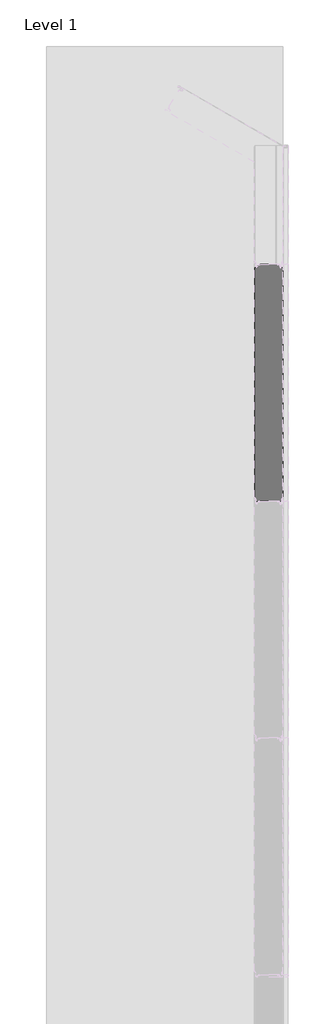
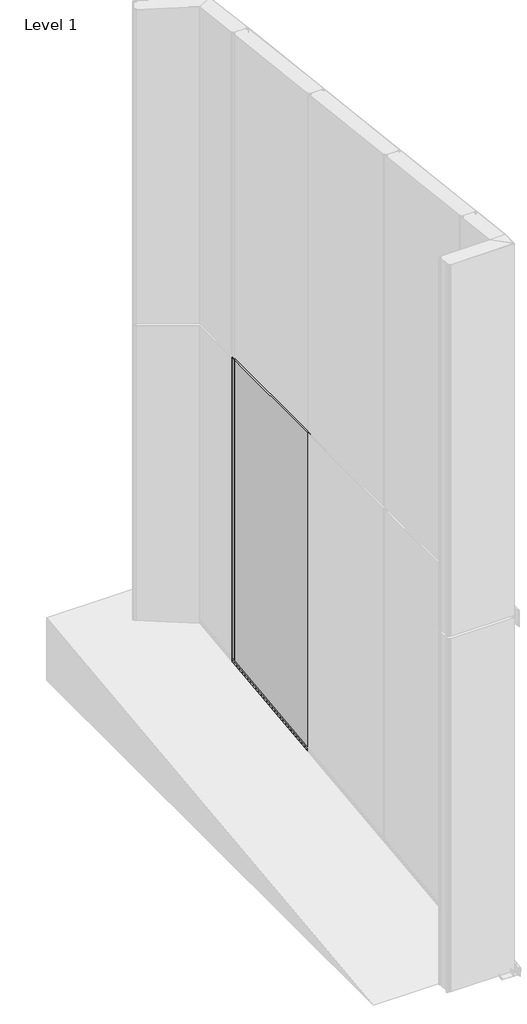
# One storey, part 10 of 16: 1 plate.
"""IFC4 building model written with IfcOpenShell, lengths in millimetres."""

from ifc_helpers import new_model, si_unit, frame, origin, place, context, project, spatial, polyline, circle_curve, ellipse_curve, element, save
from ifc_brep_helpers import plane_surface, cylinder_surface, revolved_surface, advanced_brep

model = new_model("IFC4")

# Units and contexts
model_context = context("Model", 3, world=origin())
ifc_project = project(units=[si_unit("LENGTHUNIT", "METRE", prefix="MILLI")], contexts=[model_context])

# Site, building, storey
site = spatial("IfcSite", under=ifc_project)
building = spatial("IfcBuilding", under=site)
storey = spatial("IfcBuildingStorey", under=building, Name="Level 1", Elevation=0.0)

# Plate
placement = place(None, origin())
element("IfcPlate", 1, ObjectType="TR_C_V_FTV_Panel : 120/RAL9006/RAL9002", at=placement, inside=storey, context=model_context, shape_type="AdvancedBrep", body=[
    advanced_brep(
    [(-11.0024729, 6469.8069107, 2980.0), (-15.1155057, 6469.8069107, 2980.0), (-15.1155057, 6469.0069107, 2980.0), (-11.0024729, 6469.0069107, 2980.0), (-7.3094438, 6465.9080913, 2980.0), (-6.5661308, 6461.6925541, 2980.0), (-0.1155057, 6462.2569107, 2980.0), (-0.1155057, 6477.0069107, 2980.0), (0.6167274, 6478.7746776, 2980.0), (5.0058147, 6483.1637649, 2980.0), (5.8844943, 6485.2850853, 2980.0), (5.8844943, 7474.6255398, 2980.0), (5.079038, 7476.5700835, 2980.0), (3.2133526, 7478.4357689, 2980.0), (-0.1155057, 7477.0569107, 2980.0), (-0.1155057, 7459.4569107, 2980.0), (-6.9630924, 7458.8578244, 2980.0), (-8.0299177, 7464.9080913, 2980.0), (-11.7229468, 7468.0069107, 2980.0), (-15.1155057, 7468.0069107, 2980.0), (-15.1155057, 7467.2069107, 2980.0), (-11.7229468, 7467.2069107, 2980.0), (-8.8177639, 7464.7691728, 2980.0), (-7.7509386, 7458.7189059, 2980.0), (0.6844943, 7459.4569107, 2980.0), (0.6844943, 7477.0569107, 2980.0), (2.6476671, 7477.8700835, 2980.0), (4.5133526, 7476.004398, 2980.0), (5.0844943, 7474.6255398, 2980.0), (5.0844943, 6485.2850853, 2980.0), (4.4401293, 6483.7294503, 2980.0), (0.051042, 6479.340363, 2980.0), (-0.9155057, 6477.0069107, 2980.0), (-0.9155057, 6462.2569107, 2980.0), (-5.7782846, 6461.8314726, 2980.0), (-6.5215976, 6466.0470099, 2980.0), (-11.0024729, 6469.8069107, 426.7674417), (-15.1155057, 6469.8069107, 426.7674417), (-15.1155057, 6469.0069107, 426.6744184), (-11.0024729, 6469.0069107, 426.6744184), (-7.3094438, 6465.9080913, 426.3140906), (-6.5661308, 6461.6925541, 425.8239119), (-0.1155057, 6462.2569107, 425.8895347), (-0.1155057, 6477.0069107, 427.604651), (0.6167274, 6478.7746776, 427.8102053), (5.0058147, 6483.1637649, 428.3205643), (5.8844943, 6485.2850853, 428.5672294), (5.8844943, 7474.6255398, 543.6068172), (5.079038, 7476.5700835, 543.8329269), (3.2133526, 7478.4357689, 544.0498671), (-0.1155057, 7477.0569107, 543.8895347), (-0.1155057, 7459.4569107, 541.8430231), (-6.9630924, 7458.8578244, 541.7733619), (-8.0299177, 7464.9080913, 542.4768813), (-11.7229468, 7468.0069107, 542.8372091), (-15.1155057, 7468.0069107, 542.8372091), (-15.1155057, 7467.2069107, 542.7441859), (-11.7229468, 7467.2069107, 542.7441859), (-8.8177639, 7464.7691728, 542.460728), (-7.7509386, 7458.7189059, 541.7572086), (0.6844943, 7459.4569107, 541.8430231), (0.6844943, 7477.0569107, 543.8895347), (2.6476671, 7477.8700835, 543.9840897), (4.5133526, 7476.004398, 543.7671495), (5.0844943, 7474.6255398, 543.6068172), (5.0844943, 6485.2850853, 428.5672294), (4.4401293, 6483.7294503, 428.3863417), (0.051042, 6479.340363, 427.8759827), (-0.9155057, 6477.0069107, 427.604651), (-0.9155057, 6462.2569107, 425.8895347), (-5.7782846, 6461.8314726, 425.8400652), (-6.5215976, 6466.0470099, 426.3302439)],
    [
        (0, 1),
        (1, 2),
        (2, 3),
        (3, 4, circle_curve(frame((-11.0024729, 6465.2569107, 2980.0), z_axis=(0.0, 0.0, -1.0), x_axis=(0.0, -1.0, 0.0)), 3.75)),
        (4, 5),
        (5, 6, circle_curve(frame((-3.3655057, 6462.2569107, 2980.0), z_axis=(0.0, 0.0, 1.0), x_axis=(0.0, -1.0, 0.0)), 3.25)),
        (6, 7),
        (7, 8, circle_curve(frame((2.3844943, 6477.0069107, 2980.0), z_axis=(0.0, 0.0, -1.0), x_axis=(0.0, -1.0, 0.0)), 2.5)),
        (8, 9),
        (9, 10, circle_curve(frame((2.8844943, 6485.2850853, 2980.0), z_axis=(0.0, 0.0, 1.0), x_axis=(0.0, -1.0, 0.0)), 3.0)),
        (10, 11),
        (11, 12, circle_curve(frame((3.1344943, 7474.6255398, 2980.0), z_axis=(0.0, 0.0, 1.0), x_axis=(0.0, -1.0, 0.0)), 2.75)),
        (12, 13),
        (13, 14, circle_curve(frame((1.8344943, 7477.0569107, 2980.0), z_axis=(0.0, 0.0, 1.0), x_axis=(0.0, -1.0, 0.0)), 1.95)),
        (14, 15),
        (15, 16, circle_curve(frame((-3.5655057, 7459.4569107, 2980.0), z_axis=(0.0, 0.0, -1.0), x_axis=(0.0, -1.0, 0.0)), 3.45)),
        (16, 17),
        (17, 18, circle_curve(frame((-11.7229468, 7464.2569107, 2980.0), z_axis=(0.0, 0.0, 1.0), x_axis=(0.0, -1.0, 0.0)), 3.75)),
        (18, 19),
        (19, 20),
        (20, 21),
        (21, 22, circle_curve(frame((-11.7229468, 7464.2569107, 2980.0), z_axis=(0.0, 0.0, -1.0), x_axis=(0.0, -1.0, 0.0)), 2.95)),
        (22, 23),
        (23, 24, circle_curve(frame((-3.5655057, 7459.4569107, 2980.0), z_axis=(0.0, 0.0, 1.0), x_axis=(0.0, -1.0, 0.0)), 4.25)),
        (24, 25),
        (25, 26, circle_curve(frame((1.8344943, 7477.0569107, 2980.0), z_axis=(0.0, 0.0, -1.0), x_axis=(0.0, -1.0, 0.0)), 1.15)),
        (26, 27),
        (27, 28, circle_curve(frame((3.1344943, 7474.6255398, 2980.0), z_axis=(0.0, 0.0, -1.0), x_axis=(0.0, -1.0, 0.0)), 1.95)),
        (28, 29),
        (29, 30, circle_curve(frame((2.8844943, 6485.2850853, 2980.0), z_axis=(0.0, 0.0, -1.0), x_axis=(0.0, -1.0, 0.0)), 2.2)),
        (30, 31),
        (31, 32, circle_curve(frame((2.3844943, 6477.0069107, 2980.0), z_axis=(0.0, 0.0, 1.0), x_axis=(0.0, -1.0, 0.0)), 3.3)),
        (32, 33),
        (33, 34, circle_curve(frame((-3.3655057, 6462.2569107, 2980.0), z_axis=(0.0, 0.0, -1.0), x_axis=(0.0, -1.0, 0.0)), 2.45)),
        (34, 35),
        (35, 0, circle_curve(frame((-11.0024729, 6465.2569107, 2980.0), z_axis=(0.0, 0.0, 1.0), x_axis=(0.0, -1.0, 0.0)), 4.55)),
        (0, 36),
        (36, 37),
        (37, 1),
        (37, 38),
        (38, 2),
        (38, 39),
        (39, 3),
        (39, 40, ellipse_curve(frame((-11.0024729, 6465.2569107, 426.2383719), z_axis=(0.0, 0.11550085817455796, -0.9933073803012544), x_axis=(0.0, -0.9933073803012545, -0.11550085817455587)), 3.7752664, 3.75)),
        (40, 4),
        (40, 41),
        (41, 5),
        (41, 42, ellipse_curve(frame((-3.3655057, 6462.2569107, 425.8895347), z_axis=(0.0, -0.11550085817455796, 0.9933073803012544), x_axis=(0.0, 0.9933073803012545, 0.11550085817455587)), 3.2718976, 3.25)),
        (42, 6),
        (42, 43),
        (43, 7),
        (43, 44, ellipse_curve(frame((2.3844943, 6477.0069107, 427.604651), z_axis=(0.0, 0.11550085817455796, -0.9933073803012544), x_axis=(0.0, -0.9933073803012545, -0.11550085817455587)), 2.5168443, 2.5)),
        (44, 8),
        (44, 45),
        (45, 9),
        (45, 46, ellipse_curve(frame((2.8844943, 6485.2850853, 428.5672294), z_axis=(0.0, -0.11550085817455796, 0.9933073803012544), x_axis=(0.0, 0.9933073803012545, 0.11550085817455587)), 3.0202131, 3.0)),
        (46, 10),
        (46, 47),
        (47, 11),
        (47, 48, ellipse_curve(frame((3.1344943, 7474.6255398, 543.6068172), z_axis=(0.0, -0.11550085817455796, 0.9933073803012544), x_axis=(0.0, 0.9933073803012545, 0.11550085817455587)), 2.7685287, 2.75)),
        (48, 12),
        (48, 49),
        (49, 13),
        (49, 50, ellipse_curve(frame((1.8344943, 7477.0569107, 543.8895347), z_axis=(0.0, -0.11550085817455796, 0.9933073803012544), x_axis=(0.0, 0.9933073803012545, 0.11550085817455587)), 1.9631385, 1.95)),
        (50, 14),
        (50, 51),
        (51, 15),
        (51, 52, ellipse_curve(frame((-3.5655057, 7459.4569107, 541.8430231), z_axis=(0.0, 0.11550085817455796, -0.9933073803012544), x_axis=(0.0, -0.9933073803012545, -0.11550085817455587)), 3.4732451, 3.45)),
        (52, 16),
        (52, 53),
        (53, 17),
        (53, 54, ellipse_curve(frame((-11.7229468, 7464.2569107, 542.4011626), z_axis=(0.0, -0.11550085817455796, 0.9933073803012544), x_axis=(0.0, 0.9933073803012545, 0.11550085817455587)), 3.7752664, 3.75)),
        (54, 18),
        (54, 55),
        (55, 19),
        (55, 56),
        (56, 20),
        (56, 57),
        (57, 21),
        (57, 58, ellipse_curve(frame((-11.7229468, 7464.2569107, 542.4011626), z_axis=(0.0, 0.11550085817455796, -0.9933073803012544), x_axis=(0.0, -0.9933073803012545, -0.11550085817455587)), 2.9698763, 2.95)),
        (58, 22),
        (58, 59),
        (59, 23),
        (59, 60, ellipse_curve(frame((-3.5655057, 7459.4569107, 541.8430231), z_axis=(0.0, -0.11550085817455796, 0.9933073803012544), x_axis=(0.0, 0.9933073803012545, 0.11550085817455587)), 4.2786353, 4.25)),
        (60, 24),
        (60, 61),
        (61, 25),
        (61, 62, ellipse_curve(frame((1.8344943, 7477.0569107, 543.8895347), z_axis=(0.0, 0.11550085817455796, -0.9933073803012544), x_axis=(0.0, -0.9933073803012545, -0.11550085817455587)), 1.1577484, 1.15)),
        (62, 26),
        (62, 63),
        (63, 27),
        (63, 64, ellipse_curve(frame((3.1344943, 7474.6255398, 543.6068172), z_axis=(0.0, 0.11550085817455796, -0.9933073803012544), x_axis=(0.0, -0.9933073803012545, -0.11550085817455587)), 1.9631385, 1.95)),
        (64, 28),
        (64, 65),
        (65, 29),
        (65, 66, ellipse_curve(frame((2.8844943, 6485.2850853, 428.5672294), z_axis=(0.0, 0.11550085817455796, -0.9933073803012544), x_axis=(0.0, -0.9933073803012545, -0.11550085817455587)), 2.214823, 2.2)),
        (66, 30),
        (66, 67),
        (67, 31),
        (67, 68, ellipse_curve(frame((2.3844943, 6477.0069107, 427.604651), z_axis=(0.0, -0.11550085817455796, 0.9933073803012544), x_axis=(0.0, 0.9933073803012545, 0.11550085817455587)), 3.3222345, 3.3)),
        (68, 32),
        (68, 69),
        (69, 33),
        (69, 70, ellipse_curve(frame((-3.3655057, 6462.2569107, 425.8895347), z_axis=(0.0, 0.11550085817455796, -0.9933073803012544), x_axis=(0.0, -0.9933073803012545, -0.11550085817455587)), 2.4665074, 2.45)),
        (70, 34),
        (70, 71),
        (71, 35),
        (71, 36, ellipse_curve(frame((-11.0024729, 6465.2569107, 426.2383719), z_axis=(0.0, -0.11550085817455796, 0.9933073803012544), x_axis=(0.0, 0.9933073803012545, 0.11550085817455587)), 4.5806566, 4.55)),
    ],
    [
        plane_surface(frame((-15.1155057, 6469.8069107, 2980.0), z_axis=(0.0, 0.0, 1.0), x_axis=(-1.0, 0.0, 0.0))),
        plane_surface(frame((-11.0024729, 6469.8069107, 2980.0), z_axis=(0.0, 1.0, 0.0), x_axis=(0.0, 0.0, -1.0))),
        plane_surface(frame((-15.1155057, 6469.8069107, 2980.0), z_axis=(-1.0, 0.0, 0.0), x_axis=(0.0, 0.0, -1.0))),
        plane_surface(frame((-15.1155057, 6469.0069107, 2980.0), z_axis=(0.0, -1.0, 0.0), x_axis=(0.0, 0.0, -1.0))),
        revolved_surface(polyline([(-11.0024729, 6461.5069107, 425.80232539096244), (-11.0024729, 6461.5069107, 2980.0)]), (-11.0024729, 6465.2569107, 150.0), (0.0, 0.0, -1.0)),
        plane_surface(frame((-7.3094438, 6465.9080913, 2980.0), z_axis=(-0.9848077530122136, -0.17364817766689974, 0.0), x_axis=(0.0, 0.0, -1.0))),
        cylinder_surface(frame((-3.3655057, 6462.2569107, 150.0), z_axis=(0.0, 0.0, 1.0), x_axis=(0.0, -1.0, 0.0)), 3.25),
        plane_surface(frame((-0.1155057, 6462.2569107, 2980.0), z_axis=(1.0, 0.0, 0.0), x_axis=(0.0, 0.0, -1.0))),
        revolved_surface(polyline([(2.3844943, 6474.5069107, 427.31395332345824), (2.3844943, 6474.5069107, 2980.0)]), (2.3844943, 6477.0069107, 150.0), (0.0, 0.0, -1.0)),
        plane_surface(frame((0.6167274, 6478.7746776, 2980.0), z_axis=(0.7071067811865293, -0.7071067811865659, 0.0), x_axis=(0.0, 0.0, -1.0))),
        cylinder_surface(frame((2.8844943, 6485.2850853, 150.0), z_axis=(0.0, 0.0, 1.0), x_axis=(0.0, -1.0, 0.0)), 3.0),
        plane_surface(frame((5.8844943, 6485.2850853, 2980.0), z_axis=(1.0, 0.0, 0.0), x_axis=(0.0, 0.0, -1.0))),
        cylinder_surface(frame((3.1344943, 7474.6255398, 150.0), z_axis=(0.0, 0.0, 1.0), x_axis=(0.0, -1.0, 0.0)), 2.75),
        plane_surface(frame((5.079038, 7476.5700835, 2980.0), z_axis=(0.7071067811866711, 0.707106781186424, 0.0), x_axis=(0.0, 0.0, -1.0))),
        cylinder_surface(frame((1.8344943, 7477.0569107, 150.0), z_axis=(0.0, 0.0, 1.0), x_axis=(0.0, -1.0, 0.0)), 1.95),
        plane_surface(frame((-0.1155057, 7477.0569107, 2980.0), z_axis=(-1.0, 0.0, 0.0), x_axis=(0.0, 0.0, -1.0))),
        revolved_surface(polyline([(-3.5655057, 7456.0069107, 541.4418603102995), (-3.5655057, 7456.0069107, 2980.0)]), (-3.5655057, 7459.4569107, 150.0), (0.0, 0.0, -1.0)),
        plane_surface(frame((-6.9630924, 7458.8578244, 2980.0), z_axis=(0.9848077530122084, 0.17364817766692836, 0.0), x_axis=(0.0, 0.0, -1.0))),
        cylinder_surface(frame((-11.7229468, 7464.2569107, 150.0), z_axis=(0.0, 0.0, 1.0), x_axis=(0.0, -1.0, 0.0)), 3.75),
        plane_surface(frame((-11.7229468, 7468.0069107, 2980.0), z_axis=(0.0, 1.0, 0.0), x_axis=(0.0, 0.0, -1.0))),
        plane_surface(frame((-15.1155057, 7468.0069107, 2980.0), z_axis=(-1.0, 0.0, 0.0), x_axis=(0.0, 0.0, -1.0))),
        plane_surface(frame((-15.1155057, 7467.2069107, 2980.0), z_axis=(0.0, -1.0, 0.0), x_axis=(0.0, 0.0, -1.0))),
        revolved_surface(polyline([(-11.7229468, 7461.3069107, 542.0581393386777), (-11.7229468, 7461.3069107, 2980.0)]), (-11.7229468, 7464.2569107, 150.0), (0.0, 0.0, -1.0)),
        plane_surface(frame((-8.8177639, 7464.7691728, 2980.0), z_axis=(-0.9848077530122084, -0.17364817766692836, 0.0), x_axis=(0.0, 0.0, -1.0))),
        cylinder_surface(frame((-3.5655057, 7459.4569107, 150.0), z_axis=(0.0, 0.0, 1.0), x_axis=(0.0, -1.0, 0.0)), 4.25),
        plane_surface(frame((0.6844943, 7459.4569107, 2980.0), z_axis=(1.0, 0.0, 0.0), x_axis=(0.0, 0.0, -1.0))),
        revolved_surface(polyline([(1.8344943, 7475.9069107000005, 543.7558137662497), (1.8344943, 7475.9069107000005, 2980.0)]), (1.8344943, 7477.0569107, 150.0), (0.0, 0.0, -1.0)),
        plane_surface(frame((2.6476671, 7477.8700835, 2980.0), z_axis=(-0.7071067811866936, -0.7071067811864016, 0.0), x_axis=(0.0, 0.0, -1.0))),
        revolved_surface(polyline([(3.1344943, 7472.6755398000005, 543.3800730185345), (3.1344943, 7472.6755398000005, 2980.0)]), (3.1344943, 7474.6255398, 150.0), (0.0, 0.0, -1.0)),
        plane_surface(frame((5.0844943, 7474.6255398, 2980.0), z_axis=(-1.0, 0.0, 0.0), x_axis=(0.0, 0.0, -1.0))),
        revolved_surface(polyline([(2.8844943, 6483.0850853, 428.31141544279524), (2.8844943, 6483.0850853, 2980.0)]), (2.8844943, 6485.2850853, 150.0), (0.0, 0.0, -1.0)),
        plane_surface(frame((4.4401293, 6483.7294503, 2980.0), z_axis=(-0.7071067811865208, 0.7071067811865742, 0.0), x_axis=(0.0, 0.0, -1.0))),
        cylinder_surface(frame((2.3844943, 6477.0069107, 150.0), z_axis=(0.0, 0.0, 1.0), x_axis=(0.0, -1.0, 0.0)), 3.3),
        plane_surface(frame((-0.9155057, 6477.0069107, 2980.0), z_axis=(-1.0, 0.0, 0.0), x_axis=(0.0, 0.0, -1.0))),
        revolved_surface(polyline([(-3.3655057, 6459.8069107, 425.6046509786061), (-3.3655057, 6459.8069107, 2980.0)]), (-3.3655057, 6462.2569107, 150.0), (0.0, 0.0, -1.0)),
        plane_surface(frame((-5.7782846, 6461.8314726, 2980.0), z_axis=(0.9848077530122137, 0.17364817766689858, 0.0), x_axis=(0.0, 0.0, -1.0))),
        cylinder_surface(frame((-11.0024729, 6465.2569107, 150.0), z_axis=(0.0, 0.0, 1.0), x_axis=(0.0, -1.0, 0.0)), 4.55),
        plane_surface(frame((5.8844943, 6239.6069121, 400.0), z_axis=(0.0, 0.11550085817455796, -0.9933073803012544), x_axis=(0.0, 0.9933073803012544, 0.11550085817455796))),
    ],
    [
        (0, [[1, 2, 3, 4, 5, 6, 7, 8, 9, 10, 11, 12, 13, 14, 15, 16, 17, 18, 19, 20, 21, 22, 23, 24, 25, 26, 27, 28, 29, 30, 31, 32, 33, 34, 35, 36]]),
        (1, [[-1, 37, 38, 39]]),
        (2, [[-2, -39, 40, 41]]),
        (3, [[-3, -41, 42, 43]]),
        (4, [[-4, -43, 44, 45]]),
        (5, [[-5, -45, 46, 47]]),
        (6, [[-6, -47, 48, 49]]),
        (7, [[-7, -49, 50, 51]]),
        (8, [[-8, -51, 52, 53]]),
        (9, [[-9, -53, 54, 55]]),
        (10, [[-10, -55, 56, 57]]),
        (11, [[-11, -57, 58, 59]]),
        (12, [[-12, -59, 60, 61]]),
        (13, [[-13, -61, 62, 63]]),
        (14, [[-14, -63, 64, 65]]),
        (15, [[-15, -65, 66, 67]]),
        (16, [[-16, -67, 68, 69]]),
        (17, [[-17, -69, 70, 71]]),
        (18, [[-18, -71, 72, 73]]),
        (19, [[-19, -73, 74, 75]]),
        (20, [[-20, -75, 76, 77]]),
        (21, [[-21, -77, 78, 79]]),
        (22, [[-22, -79, 80, 81]]),
        (23, [[-23, -81, 82, 83]]),
        (24, [[-24, -83, 84, 85]]),
        (25, [[-25, -85, 86, 87]]),
        (26, [[-26, -87, 88, 89]]),
        (27, [[-27, -89, 90, 91]]),
        (28, [[-28, -91, 92, 93]]),
        (29, [[-29, -93, 94, 95]]),
        (30, [[-30, -95, 96, 97]]),
        (31, [[-31, -97, 98, 99]]),
        (32, [[-32, -99, 100, 101]]),
        (33, [[-33, -101, 102, 103]]),
        (34, [[-34, -103, 104, 105]]),
        (35, [[-35, -105, 106, 107]]),
        (36, [[-36, -107, 108, -37]]),
        (37, [[-38, -108, -106, -104, -102, -100, -98, -96, -94, -92, -90, -88, -86, -84, -82, -80, -78, -76, -74, -72, -70, -68, -66, -64, -62, -60, -58, -56, -54, -52, -50, -48, -46, -44, -42, -40]]),
    ],
),
    advanced_brep(
    [(-17.8155057, 7469.6069107, 2980.0), (-90.4155057, 7469.6069107, 2980.0), (-90.4155057, 7467.2069107, 2980.0), (-96.5080645, 7467.2069107, 2980.0), (-99.4132474, 7464.7691728, 2980.0), (-100.4800727, 7458.7189059, 2980.0), (-104.6655057, 7455.2069107, 2980.0), (-113.3155057, 7455.2069107, 2980.0), (-113.3155057, 6485.2850853, 2980.0), (-112.6711406, 6483.7294503, 2980.0), (-108.2820533, 6479.340363, 2980.0), (-107.3155057, 6477.0069107, 2980.0), (-107.3155057, 6469.6069118, 2980.0), (-0.9155057, 6469.6069118, 2980.0), (-0.9155057, 6477.0069107, 2980.0), (0.051042, 6479.340363, 2980.0), (4.4401293, 6483.7294503, 2980.0), (5.0844943, 6485.2850853, 2980.0), (5.0844943, 7455.2069107, 2980.0), (-3.5655057, 7455.2069107, 2980.0), (-7.7509386, 7458.7189059, 2980.0), (-8.8177639, 7464.7691728, 2980.0), (-11.7229468, 7467.2069107, 2980.0), (-17.8155057, 7467.2069107, 2980.0), (-17.8155057, 7469.6069107, 543.0232556), (-90.4155057, 7469.6069107, 543.0232556), (-90.4155057, 7467.2069107, 542.7441859), (-96.5080645, 7467.2069107, 542.7441859), (-99.4132474, 7464.7691728, 542.460728), (-100.4800727, 7458.7189059, 541.7572086), (-104.6655057, 7455.2069107, 541.348837), (-113.3155057, 7455.2069107, 541.348837), (-113.3155057, 6485.2850853, 428.5672294), (-112.6711406, 6483.7294503, 428.3863417), (-108.2820533, 6479.340363, 427.8759827), (-107.3155057, 6477.0069107, 427.604651), (-107.3155057, 6469.6069118, 426.744186), (-0.9155057, 6469.6069118, 426.744186), (-0.9155057, 6477.0069107, 427.604651), (0.051042, 6479.340363, 427.8759827), (4.4401293, 6483.7294503, 428.3863417), (5.0844943, 6485.2850853, 428.5672294), (5.0844943, 7455.2069107, 541.348837), (-3.5655057, 7455.2069107, 541.348837), (-7.7509386, 7458.7189059, 541.7572086), (-8.8177639, 7464.7691728, 542.460728), (-11.7229468, 7467.2069107, 542.7441859), (-17.8155057, 7467.2069107, 542.7441859)],
    [
        (0, 1),
        (1, 2),
        (2, 3),
        (3, 4, circle_curve(frame((-96.5080645, 7464.2569107, 2980.0), z_axis=(0.0, 0.0, 1.0), x_axis=(0.0, -1.0, 0.0)), 2.95)),
        (4, 5),
        (5, 6, circle_curve(frame((-104.6655057, 7459.4569107, 2980.0), z_axis=(0.0, 0.0, -1.0), x_axis=(0.0, -1.0, 0.0)), 4.25)),
        (6, 7),
        (7, 8),
        (8, 9, circle_curve(frame((-111.1155057, 6485.2850853, 2980.0), z_axis=(0.0, 0.0, 1.0), x_axis=(0.0, -1.0, 0.0)), 2.2)),
        (9, 10),
        (10, 11, circle_curve(frame((-110.6155057, 6477.0069107, 2980.0), z_axis=(0.0, 0.0, -1.0), x_axis=(0.0, -1.0, 0.0)), 3.3)),
        (11, 12),
        (12, 13),
        (13, 14),
        (14, 15, circle_curve(frame((2.3844943, 6477.0069107, 2980.0), z_axis=(0.0, 0.0, -1.0), x_axis=(0.0, -1.0, 0.0)), 3.3)),
        (15, 16),
        (16, 17, circle_curve(frame((2.8844943, 6485.2850853, 2980.0), z_axis=(0.0, 0.0, 1.0), x_axis=(0.0, -1.0, 0.0)), 2.2)),
        (17, 18),
        (18, 19),
        (19, 20, circle_curve(frame((-3.5655057, 7459.4569107, 2980.0), z_axis=(0.0, 0.0, -1.0), x_axis=(0.0, -1.0, 0.0)), 4.25)),
        (20, 21),
        (21, 22, circle_curve(frame((-11.7229468, 7464.2569107, 2980.0), z_axis=(0.0, 0.0, 1.0), x_axis=(0.0, -1.0, 0.0)), 2.95)),
        (22, 23),
        (23, 0),
        (0, 24),
        (24, 25),
        (25, 1),
        (25, 26),
        (26, 2),
        (26, 27),
        (27, 3),
        (27, 28, ellipse_curve(frame((-96.5080645, 7464.2569107, 542.4011626), z_axis=(0.0, -0.11550085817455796, 0.9933073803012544), x_axis=(0.0, 0.9933073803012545, 0.11550085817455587)), 2.9698763, 2.95)),
        (28, 4),
        (28, 29),
        (29, 5),
        (29, 30, ellipse_curve(frame((-104.6655057, 7459.4569107, 541.8430231), z_axis=(0.0, 0.11550085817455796, -0.9933073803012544), x_axis=(0.0, -0.9933073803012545, -0.11550085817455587)), 4.2786353, 4.25)),
        (30, 6),
        (30, 31),
        (31, 7),
        (31, 32),
        (32, 8),
        (32, 33, ellipse_curve(frame((-111.1155057, 6485.2850853, 428.5672294), z_axis=(0.0, -0.11550085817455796, 0.9933073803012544), x_axis=(0.0, 0.9933073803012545, 0.11550085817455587)), 2.214823, 2.2)),
        (33, 9),
        (33, 34),
        (34, 10),
        (34, 35, ellipse_curve(frame((-110.6155057, 6477.0069107, 427.604651), z_axis=(0.0, 0.11550085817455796, -0.9933073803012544), x_axis=(0.0, -0.9933073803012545, -0.11550085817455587)), 3.3222345, 3.3)),
        (35, 11),
        (35, 36),
        (36, 12),
        (36, 37),
        (37, 13),
        (37, 38),
        (38, 14),
        (38, 39, ellipse_curve(frame((2.3844943, 6477.0069107, 427.604651), z_axis=(0.0, 0.11550085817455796, -0.9933073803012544), x_axis=(0.0, -0.9933073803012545, -0.11550085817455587)), 3.3222345, 3.3)),
        (39, 15),
        (39, 40),
        (40, 16),
        (40, 41, ellipse_curve(frame((2.8844943, 6485.2850853, 428.5672294), z_axis=(0.0, -0.11550085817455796, 0.9933073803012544), x_axis=(0.0, 0.9933073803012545, 0.11550085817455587)), 2.214823, 2.2)),
        (41, 17),
        (41, 42),
        (42, 18),
        (42, 43),
        (43, 19),
        (43, 44, ellipse_curve(frame((-3.5655057, 7459.4569107, 541.8430231), z_axis=(0.0, 0.11550085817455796, -0.9933073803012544), x_axis=(0.0, -0.9933073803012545, -0.11550085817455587)), 4.2786353, 4.25)),
        (44, 20),
        (44, 45),
        (45, 21),
        (45, 46, ellipse_curve(frame((-11.7229468, 7464.2569107, 542.4011626), z_axis=(0.0, -0.11550085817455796, 0.9933073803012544), x_axis=(0.0, 0.9933073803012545, 0.11550085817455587)), 2.9698763, 2.95)),
        (46, 22),
        (46, 47),
        (47, 23),
        (47, 24),
    ],
    [
        plane_surface(frame((-90.4155057, 7469.6069107, 2980.0), z_axis=(0.0, 0.0, 1.0), x_axis=(-1.0, 0.0, 0.0))),
        plane_surface(frame((-17.8155057, 7469.6069107, 2980.0), z_axis=(0.0, 1.0, 0.0), x_axis=(0.0, 0.0, -1.0))),
        plane_surface(frame((-90.4155057, 7469.6069107, 2980.0), z_axis=(-1.0, 0.0, 0.0), x_axis=(0.0, 0.0, -1.0))),
        plane_surface(frame((-90.4155057, 7467.2069107, 2980.0), z_axis=(0.0, 1.0, 0.0), x_axis=(0.0, 0.0, -1.0))),
        cylinder_surface(frame((-96.5080645, 7464.2569107, 150.0), z_axis=(0.0, 0.0, 1.0), x_axis=(0.0, -1.0, 0.0)), 2.95),
        plane_surface(frame((-99.4132474, 7464.7691728, 2980.0), z_axis=(-0.9848077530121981, 0.17364817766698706, 0.0), x_axis=(0.0, 0.0, -1.0))),
        revolved_surface(polyline([(-104.6655057, 7455.2069107, 541.348837), (-104.6655057, 7455.2069107, 2980.0)]), (-104.6655057, 7459.4569107, 150.0), (0.0, 0.0, -1.0)),
        plane_surface(frame((-104.6655057, 7455.2069107, 2980.0), z_axis=(0.0, 1.0, 0.0), x_axis=(0.0, 0.0, -1.0))),
        plane_surface(frame((-113.3155057, 7455.2069107, 2980.0), z_axis=(-1.0, 0.0, 0.0), x_axis=(0.0, 0.0, -1.0))),
        cylinder_surface(frame((-111.1155057, 6485.2850853, 150.0), z_axis=(0.0, 0.0, 1.0), x_axis=(0.0, -1.0, 0.0)), 2.2),
        plane_surface(frame((-112.6711406, 6483.7294503, 2980.0), z_axis=(-0.7071067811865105, -0.7071067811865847, 0.0), x_axis=(0.0, 0.0, -1.0))),
        revolved_surface(polyline([(-110.6155057, 6473.7069107, 427.2209300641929), (-110.6155057, 6473.7069107, 2980.0)]), (-110.6155057, 6477.0069107, 150.0), (0.0, 0.0, -1.0)),
        plane_surface(frame((-107.3155057, 6477.0069107, 2980.0), z_axis=(-1.0, 0.0, 0.0), x_axis=(0.0, 0.0, -1.0))),
        plane_surface(frame((-107.3155057, 6469.6069118, 2980.0), z_axis=(0.0, -1.0, 0.0), x_axis=(0.0, 0.0, -1.0))),
        plane_surface(frame((-0.9155057, 6469.6069118, 2980.0), z_axis=(1.0, 0.0, 0.0), x_axis=(0.0, 0.0, -1.0))),
        revolved_surface(polyline([(2.3844943, 6473.7069107, 427.2209300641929), (2.3844943, 6473.7069107, 2980.0)]), (2.3844943, 6477.0069107, 150.0), (0.0, 0.0, -1.0)),
        plane_surface(frame((0.051042, 6479.340363, 2980.0), z_axis=(0.7071067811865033, -0.7071067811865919, 0.0), x_axis=(0.0, 0.0, -1.0))),
        cylinder_surface(frame((2.8844943, 6485.2850853, 150.0), z_axis=(0.0, 0.0, 1.0), x_axis=(0.0, -1.0, 0.0)), 2.2),
        plane_surface(frame((5.0844943, 6485.2850853, 2980.0), z_axis=(1.0, 0.0, 0.0), x_axis=(0.0, 0.0, -1.0))),
        plane_surface(frame((5.0844943, 7455.2069107, 2980.0), z_axis=(0.0, 1.0, 0.0), x_axis=(0.0, 0.0, -1.0))),
        revolved_surface(polyline([(-3.5655057, 7455.2069107, 541.348837), (-3.5655057, 7455.2069107, 2980.0)]), (-3.5655057, 7459.4569107, 150.0), (0.0, 0.0, -1.0)),
        plane_surface(frame((-7.7509386, 7458.7189059, 2980.0), z_axis=(0.9848077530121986, 0.17364817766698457, 0.0), x_axis=(0.0, 0.0, -1.0))),
        cylinder_surface(frame((-11.7229468, 7464.2569107, 150.0), z_axis=(0.0, 0.0, 1.0), x_axis=(0.0, -1.0, 0.0)), 2.95),
        plane_surface(frame((-11.7229468, 7467.2069107, 2980.0), z_axis=(0.0, 1.0, 0.0), x_axis=(0.0, 0.0, -1.0))),
        plane_surface(frame((-17.8155057, 7467.2069107, 2980.0), z_axis=(1.0, 0.0, 0.0), x_axis=(0.0, 0.0, -1.0))),
        plane_surface(frame((5.8844943, 6239.6069121, 400.0), z_axis=(0.0, 0.11550085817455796, -0.9933073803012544), x_axis=(0.0, 0.9933073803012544, 0.11550085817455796))),
    ],
    [
        (0, [[1, 2, 3, 4, 5, 6, 7, 8, 9, 10, 11, 12, 13, 14, 15, 16, 17, 18, 19, 20, 21, 22, 23, 24]]),
        (1, [[-1, 25, 26, 27]]),
        (2, [[-2, -27, 28, 29]]),
        (3, [[-3, -29, 30, 31]]),
        (4, [[-4, -31, 32, 33]]),
        (5, [[-5, -33, 34, 35]]),
        (6, [[-6, -35, 36, 37]]),
        (7, [[-7, -37, 38, 39]]),
        (8, [[-8, -39, 40, 41]]),
        (9, [[-9, -41, 42, 43]]),
        (10, [[-10, -43, 44, 45]]),
        (11, [[-11, -45, 46, 47]]),
        (12, [[-12, -47, 48, 49]]),
        (13, [[-13, -49, 50, 51]]),
        (14, [[-14, -51, 52, 53]]),
        (15, [[-15, -53, 54, 55]]),
        (16, [[-16, -55, 56, 57]]),
        (17, [[-17, -57, 58, 59]]),
        (18, [[-18, -59, 60, 61]]),
        (19, [[-19, -61, 62, 63]]),
        (20, [[-20, -63, 64, 65]]),
        (21, [[-21, -65, 66, 67]]),
        (22, [[-22, -67, 68, 69]]),
        (23, [[-23, -69, 70, 71]]),
        (24, [[-24, -71, 72, -25]]),
        (25, [[-26, -72, -70, -68, -66, -64, -62, -60, -58, -56, -54, -52, -50, -48, -46, -44, -42, -40, -38, -36, -34, -32, -30, -28]]),
    ],
),
    advanced_brep(
    [(-97.2285384, 6469.8069107, 2980.0), (-101.7094137, 6466.0470099, 2980.0), (-102.4527267, 6461.8314726, 2980.0), (-107.3155057, 6462.2569107, 2980.0), (-107.3155057, 6477.0069107, 2980.0), (-108.2820533, 6479.340363, 2980.0), (-112.6711406, 6483.7294503, 2980.0), (-113.3155057, 6485.2850853, 2980.0), (-113.3155057, 7474.6255398, 2980.0), (-112.7443639, 7476.004398, 2980.0), (-110.8786785, 7477.8700835, 2980.0), (-108.9155057, 7477.0569107, 2980.0), (-108.9155057, 7459.4569107, 2980.0), (-100.4800727, 7458.7189059, 2980.0), (-99.4132474, 7464.7691728, 2980.0), (-96.5080645, 7467.2069107, 2980.0), (-93.1155057, 7467.2069107, 2980.0), (-93.1155057, 7468.0069107, 2980.0), (-96.5080645, 7468.0069107, 2980.0), (-100.2010936, 7464.9080913, 2980.0), (-101.2679189, 7458.8578244, 2980.0), (-108.1155057, 7459.4569107, 2980.0), (-108.1155057, 7477.0569107, 2980.0), (-111.4443639, 7478.4357689, 2980.0), (-113.3100493, 7476.5700835, 2980.0), (-114.1155057, 7474.6255398, 2980.0), (-114.1155057, 6485.2850853, 2980.0), (-113.236826, 6483.1637649, 2980.0), (-108.8477387, 6478.7746776, 2980.0), (-108.1155057, 6477.0069107, 2980.0), (-108.1155057, 6462.2569107, 2980.0), (-101.6648805, 6461.6925541, 2980.0), (-100.9215675, 6465.9080913, 2980.0), (-97.2285384, 6469.0069107, 2980.0), (-93.1155057, 6469.0069107, 2980.0), (-93.1155057, 6469.8069107, 2980.0), (-97.2285384, 6469.8069107, 426.7674417), (-101.7094137, 6466.0470099, 426.3302439), (-102.4527267, 6461.8314726, 425.8400652), (-107.3155057, 6462.2569107, 425.8895347), (-107.3155057, 6477.0069107, 427.604651), (-108.2820533, 6479.340363, 427.8759827), (-112.6711406, 6483.7294503, 428.3863417), (-113.3155057, 6485.2850853, 428.5672294), (-113.3155057, 7474.6255398, 543.6068172), (-112.7443639, 7476.004398, 543.7671495), (-110.8786785, 7477.8700835, 543.9840897), (-108.9155057, 7477.0569107, 543.8895347), (-108.9155057, 7459.4569107, 541.8430231), (-100.4800727, 7458.7189059, 541.7572086), (-99.4132474, 7464.7691728, 542.460728), (-96.5080645, 7467.2069107, 542.7441859), (-93.1155057, 7467.2069107, 542.7441859), (-93.1155057, 7468.0069107, 542.8372091), (-96.5080645, 7468.0069107, 542.8372091), (-100.2010936, 7464.9080913, 542.4768813), (-101.2679189, 7458.8578244, 541.7733619), (-108.1155057, 7459.4569107, 541.8430231), (-108.1155057, 7477.0569107, 543.8895347), (-111.4443639, 7478.4357689, 544.0498671), (-113.3100493, 7476.5700835, 543.8329269), (-114.1155057, 7474.6255398, 543.6068172), (-114.1155057, 6485.2850853, 428.5672294), (-113.236826, 6483.1637649, 428.3205643), (-108.8477387, 6478.7746776, 427.8102053), (-108.1155057, 6477.0069107, 427.604651), (-108.1155057, 6462.2569107, 425.8895347), (-101.6648805, 6461.6925541, 425.8239119), (-100.9215675, 6465.9080913, 426.3140906), (-97.2285384, 6469.0069107, 426.6744184), (-93.1155057, 6469.0069107, 426.6744184), (-93.1155057, 6469.8069107, 426.7674417)],
    [
        (0, 1, circle_curve(frame((-97.2285384, 6465.2569107, 2980.0), z_axis=(0.0, 0.0, 1.0), x_axis=(0.0, -1.0, 0.0)), 4.55)),
        (1, 2),
        (2, 3, circle_curve(frame((-104.8655057, 6462.2569107, 2980.0), z_axis=(0.0, 0.0, -1.0), x_axis=(0.0, -1.0, 0.0)), 2.45)),
        (3, 4),
        (4, 5, circle_curve(frame((-110.6155057, 6477.0069107, 2980.0), z_axis=(0.0, 0.0, 1.0), x_axis=(0.0, -1.0, 0.0)), 3.3)),
        (5, 6),
        (6, 7, circle_curve(frame((-111.1155057, 6485.2850853, 2980.0), z_axis=(0.0, 0.0, -1.0), x_axis=(0.0, -1.0, 0.0)), 2.2)),
        (7, 8),
        (8, 9, circle_curve(frame((-111.3655057, 7474.6255398, 2980.0), z_axis=(0.0, 0.0, -1.0), x_axis=(0.0, -1.0, 0.0)), 1.95)),
        (9, 10),
        (10, 11, circle_curve(frame((-110.0655057, 7477.0569107, 2980.0), z_axis=(0.0, 0.0, -1.0), x_axis=(0.0, -1.0, 0.0)), 1.15)),
        (11, 12),
        (12, 13, circle_curve(frame((-104.6655057, 7459.4569107, 2980.0), z_axis=(0.0, 0.0, 1.0), x_axis=(0.0, -1.0, 0.0)), 4.25)),
        (13, 14),
        (14, 15, circle_curve(frame((-96.5080645, 7464.2569107, 2980.0), z_axis=(0.0, 0.0, -1.0), x_axis=(0.0, -1.0, 0.0)), 2.95)),
        (15, 16),
        (16, 17),
        (17, 18),
        (18, 19, circle_curve(frame((-96.5080645, 7464.2569107, 2980.0), z_axis=(0.0, 0.0, 1.0), x_axis=(0.0, -1.0, 0.0)), 3.75)),
        (19, 20),
        (20, 21, circle_curve(frame((-104.6655057, 7459.4569107, 2980.0), z_axis=(0.0, 0.0, -1.0), x_axis=(0.0, -1.0, 0.0)), 3.45)),
        (21, 22),
        (22, 23, circle_curve(frame((-110.0655057, 7477.0569107, 2980.0), z_axis=(0.0, 0.0, 1.0), x_axis=(0.0, -1.0, 0.0)), 1.95)),
        (23, 24),
        (24, 25, circle_curve(frame((-111.3655057, 7474.6255398, 2980.0), z_axis=(0.0, 0.0, 1.0), x_axis=(0.0, -1.0, 0.0)), 2.75)),
        (25, 26),
        (26, 27, circle_curve(frame((-111.1155057, 6485.2850853, 2980.0), z_axis=(0.0, 0.0, 1.0), x_axis=(0.0, -1.0, 0.0)), 3.0)),
        (27, 28),
        (28, 29, circle_curve(frame((-110.6155057, 6477.0069107, 2980.0), z_axis=(0.0, 0.0, -1.0), x_axis=(0.0, -1.0, 0.0)), 2.5)),
        (29, 30),
        (30, 31, circle_curve(frame((-104.8655057, 6462.2569107, 2980.0), z_axis=(0.0, 0.0, 1.0), x_axis=(0.0, -1.0, 0.0)), 3.25)),
        (31, 32),
        (32, 33, circle_curve(frame((-97.2285384, 6465.2569107, 2980.0), z_axis=(0.0, 0.0, -1.0), x_axis=(0.0, -1.0, 0.0)), 3.75)),
        (33, 34),
        (34, 35),
        (35, 0),
        (0, 36),
        (36, 37, ellipse_curve(frame((-97.2285384, 6465.2569107, 426.2383719), z_axis=(0.0, -0.11550085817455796, 0.9933073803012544), x_axis=(0.0, 0.9933073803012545, 0.11550085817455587)), 4.5806566, 4.55)),
        (37, 1),
        (37, 38),
        (38, 2),
        (38, 39, ellipse_curve(frame((-104.8655057, 6462.2569107, 425.8895347), z_axis=(0.0, 0.11550085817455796, -0.9933073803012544), x_axis=(0.0, -0.9933073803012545, -0.11550085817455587)), 2.4665074, 2.45)),
        (39, 3),
        (39, 40),
        (40, 4),
        (40, 41, ellipse_curve(frame((-110.6155057, 6477.0069107, 427.604651), z_axis=(0.0, -0.11550085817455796, 0.9933073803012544), x_axis=(0.0, 0.9933073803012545, 0.11550085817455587)), 3.3222345, 3.3)),
        (41, 5),
        (41, 42),
        (42, 6),
        (42, 43, ellipse_curve(frame((-111.1155057, 6485.2850853, 428.5672294), z_axis=(0.0, 0.11550085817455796, -0.9933073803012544), x_axis=(0.0, -0.9933073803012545, -0.11550085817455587)), 2.214823, 2.2)),
        (43, 7),
        (43, 44),
        (44, 8),
        (44, 45, ellipse_curve(frame((-111.3655057, 7474.6255398, 543.6068172), z_axis=(0.0, 0.11550085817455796, -0.9933073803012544), x_axis=(0.0, -0.9933073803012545, -0.11550085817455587)), 1.9631385, 1.95)),
        (45, 9),
        (45, 46),
        (46, 10),
        (46, 47, ellipse_curve(frame((-110.0655057, 7477.0569107, 543.8895347), z_axis=(0.0, 0.11550085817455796, -0.9933073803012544), x_axis=(0.0, -0.9933073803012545, -0.11550085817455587)), 1.1577484, 1.15)),
        (47, 11),
        (47, 48),
        (48, 12),
        (48, 49, ellipse_curve(frame((-104.6655057, 7459.4569107, 541.8430231), z_axis=(0.0, -0.11550085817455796, 0.9933073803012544), x_axis=(0.0, 0.9933073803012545, 0.11550085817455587)), 4.2786353, 4.25)),
        (49, 13),
        (49, 50),
        (50, 14),
        (50, 51, ellipse_curve(frame((-96.5080645, 7464.2569107, 542.4011626), z_axis=(0.0, 0.11550085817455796, -0.9933073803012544), x_axis=(0.0, -0.9933073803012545, -0.11550085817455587)), 2.9698763, 2.95)),
        (51, 15),
        (51, 52),
        (52, 16),
        (52, 53),
        (53, 17),
        (53, 54),
        (54, 18),
        (54, 55, ellipse_curve(frame((-96.5080645, 7464.2569107, 542.4011626), z_axis=(0.0, -0.11550085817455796, 0.9933073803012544), x_axis=(0.0, 0.9933073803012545, 0.11550085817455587)), 3.7752664, 3.75)),
        (55, 19),
        (55, 56),
        (56, 20),
        (56, 57, ellipse_curve(frame((-104.6655057, 7459.4569107, 541.8430231), z_axis=(0.0, 0.11550085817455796, -0.9933073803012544), x_axis=(0.0, -0.9933073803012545, -0.11550085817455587)), 3.4732451, 3.45)),
        (57, 21),
        (57, 58),
        (58, 22),
        (58, 59, ellipse_curve(frame((-110.0655057, 7477.0569107, 543.8895347), z_axis=(0.0, -0.11550085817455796, 0.9933073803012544), x_axis=(0.0, 0.9933073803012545, 0.11550085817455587)), 1.9631385, 1.95)),
        (59, 23),
        (59, 60),
        (60, 24),
        (60, 61, ellipse_curve(frame((-111.3655057, 7474.6255398, 543.6068172), z_axis=(0.0, -0.11550085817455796, 0.9933073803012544), x_axis=(0.0, 0.9933073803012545, 0.11550085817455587)), 2.7685287, 2.75)),
        (61, 25),
        (61, 62),
        (62, 26),
        (62, 63, ellipse_curve(frame((-111.1155057, 6485.2850853, 428.5672294), z_axis=(0.0, -0.11550085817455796, 0.9933073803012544), x_axis=(0.0, 0.9933073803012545, 0.11550085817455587)), 3.0202131, 3.0)),
        (63, 27),
        (63, 64),
        (64, 28),
        (64, 65, ellipse_curve(frame((-110.6155057, 6477.0069107, 427.604651), z_axis=(0.0, 0.11550085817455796, -0.9933073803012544), x_axis=(0.0, -0.9933073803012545, -0.11550085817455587)), 2.5168443, 2.5)),
        (65, 29),
        (65, 66),
        (66, 30),
        (66, 67, ellipse_curve(frame((-104.8655057, 6462.2569107, 425.8895347), z_axis=(0.0, -0.11550085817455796, 0.9933073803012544), x_axis=(0.0, 0.9933073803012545, 0.11550085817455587)), 3.2718976, 3.25)),
        (67, 31),
        (67, 68),
        (68, 32),
        (68, 69, ellipse_curve(frame((-97.2285384, 6465.2569107, 426.2383719), z_axis=(0.0, 0.11550085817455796, -0.9933073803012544), x_axis=(0.0, -0.9933073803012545, -0.11550085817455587)), 3.7752664, 3.75)),
        (69, 33),
        (69, 70),
        (70, 34),
        (70, 71),
        (71, 35),
        (71, 36),
    ],
    [
        plane_surface(frame((-97.2285384, 6460.7069107, 2980.0), z_axis=(0.0, 0.0, 1.0), x_axis=(1.0, 0.0, 0.0))),
        cylinder_surface(frame((-97.2285384, 6465.2569107, 150.0), z_axis=(0.0, 0.0, 1.0), x_axis=(0.0, -1.0, 0.0)), 4.55),
        plane_surface(frame((-101.7094137, 6466.0470099, 2980.0), z_axis=(-0.9848077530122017, 0.17364817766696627, 0.0), x_axis=(0.0, 0.0, -1.0))),
        revolved_surface(polyline([(-104.8655057, 6459.8069107, 425.6046509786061), (-104.8655057, 6459.8069107, 2980.0)]), (-104.8655057, 6462.2569107, 150.0), (0.0, 0.0, -1.0)),
        plane_surface(frame((-107.3155057, 6462.2569107, 2980.0), z_axis=(1.0, 0.0, 0.0), x_axis=(0.0, 0.0, -1.0))),
        cylinder_surface(frame((-110.6155057, 6477.0069107, 150.0), z_axis=(0.0, 0.0, 1.0), x_axis=(0.0, -1.0, 0.0)), 3.3),
        plane_surface(frame((-108.2820533, 6479.340363, 2980.0), z_axis=(0.7071067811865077, 0.7071067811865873, 0.0), x_axis=(0.0, 0.0, -1.0))),
        revolved_surface(polyline([(-111.1155057, 6483.0850853, 428.31141544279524), (-111.1155057, 6483.0850853, 2980.0)]), (-111.1155057, 6485.2850853, 150.0), (0.0, 0.0, -1.0)),
        plane_surface(frame((-113.3155057, 6485.2850853, 2980.0), z_axis=(1.0, 0.0, 0.0), x_axis=(0.0, 0.0, -1.0))),
        revolved_surface(polyline([(-111.3655057, 7472.6755398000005, 543.3800730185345), (-111.3655057, 7472.6755398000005, 2980.0)]), (-111.3655057, 7474.6255398, 150.0), (0.0, 0.0, -1.0)),
        plane_surface(frame((-112.7443639, 7476.004398, 2980.0), z_axis=(0.7071067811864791, -0.707106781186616, 0.0), x_axis=(0.0, 0.0, -1.0))),
        revolved_surface(polyline([(-110.0655057, 7475.9069107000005, 543.7558137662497), (-110.0655057, 7475.9069107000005, 2980.0)]), (-110.0655057, 7477.0569107, 150.0), (0.0, 0.0, -1.0)),
        plane_surface(frame((-108.9155057, 7477.0569107, 2980.0), z_axis=(-1.0, 0.0, 0.0), x_axis=(0.0, 0.0, -1.0))),
        cylinder_surface(frame((-104.6655057, 7459.4569107, 150.0), z_axis=(0.0, 0.0, 1.0), x_axis=(0.0, -1.0, 0.0)), 4.25),
        plane_surface(frame((-100.4800727, 7458.7189059, 2980.0), z_axis=(0.9848077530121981, -0.17364817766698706, 0.0), x_axis=(0.0, 0.0, -1.0))),
        revolved_surface(polyline([(-96.5080645, 7461.3069107, 542.0581393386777), (-96.5080645, 7461.3069107, 2980.0)]), (-96.5080645, 7464.2569107, 150.0), (0.0, 0.0, -1.0)),
        plane_surface(frame((-96.5080645, 7467.2069107, 2980.0), z_axis=(0.0, -1.0, 0.0), x_axis=(0.0, 0.0, -1.0))),
        plane_surface(frame((-93.1155057, 7467.2069107, 2980.0), z_axis=(1.0, 0.0, 0.0), x_axis=(0.0, 0.0, -1.0))),
        plane_surface(frame((-93.1155057, 7468.0069107, 2980.0), z_axis=(0.0, 1.0, 0.0), x_axis=(0.0, 0.0, -1.0))),
        cylinder_surface(frame((-96.5080645, 7464.2569107, 150.0), z_axis=(0.0, 0.0, 1.0), x_axis=(0.0, -1.0, 0.0)), 3.75),
        plane_surface(frame((-100.2010936, 7464.9080913, 2980.0), z_axis=(-0.9848077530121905, 0.1736481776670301, 0.0), x_axis=(0.0, 0.0, -1.0))),
        revolved_surface(polyline([(-104.6655057, 7456.0069107, 541.4418603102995), (-104.6655057, 7456.0069107, 2980.0)]), (-104.6655057, 7459.4569107, 150.0), (0.0, 0.0, -1.0)),
        plane_surface(frame((-108.1155057, 7459.4569107, 2980.0), z_axis=(1.0, 0.0, 0.0), x_axis=(0.0, 0.0, -1.0))),
        cylinder_surface(frame((-110.0655057, 7477.0569107, 150.0), z_axis=(0.0, 0.0, 1.0), x_axis=(0.0, -1.0, 0.0)), 1.95),
        plane_surface(frame((-111.4443639, 7478.4357689, 2980.0), z_axis=(-0.7071067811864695, 0.7071067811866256, 0.0), x_axis=(0.0, 0.0, -1.0))),
        cylinder_surface(frame((-111.3655057, 7474.6255398, 150.0), z_axis=(0.0, 0.0, 1.0), x_axis=(0.0, -1.0, 0.0)), 2.75),
        plane_surface(frame((-114.1155057, 7474.6255398, 2980.0), z_axis=(-1.0, 0.0, 0.0), x_axis=(0.0, 0.0, -1.0))),
        cylinder_surface(frame((-111.1155057, 6485.2850853, 150.0), z_axis=(0.0, 0.0, 1.0), x_axis=(0.0, -1.0, 0.0)), 3.0),
        plane_surface(frame((-113.236826, 6483.1637649, 2980.0), z_axis=(-0.7071067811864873, -0.7071067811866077, 0.0), x_axis=(0.0, 0.0, -1.0))),
        revolved_surface(polyline([(-110.6155057, 6474.5069107, 427.31395332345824), (-110.6155057, 6474.5069107, 2980.0)]), (-110.6155057, 6477.0069107, 150.0), (0.0, 0.0, -1.0)),
        plane_surface(frame((-108.1155057, 6477.0069107, 2980.0), z_axis=(-1.0, 0.0, 0.0), x_axis=(0.0, 0.0, -1.0))),
        cylinder_surface(frame((-104.8655057, 6462.2569107, 150.0), z_axis=(0.0, 0.0, 1.0), x_axis=(0.0, -1.0, 0.0)), 3.25),
        plane_surface(frame((-101.6648805, 6461.6925541, 2980.0), z_axis=(0.9848077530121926, -0.17364817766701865, 0.0), x_axis=(0.0, 0.0, -1.0))),
        revolved_surface(polyline([(-97.2285384, 6461.5069107, 425.80232539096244), (-97.2285384, 6461.5069107, 2980.0)]), (-97.2285384, 6465.2569107, 150.0), (0.0, 0.0, -1.0)),
        plane_surface(frame((-97.2285384, 6469.0069107, 2980.0), z_axis=(0.0, -1.0, 0.0), x_axis=(0.0, 0.0, -1.0))),
        plane_surface(frame((-93.1155057, 6469.0069107, 2980.0), z_axis=(1.0, 0.0, 0.0), x_axis=(0.0, 0.0, -1.0))),
        plane_surface(frame((-93.1155057, 6469.8069107, 2980.0), z_axis=(0.0, 1.0, 0.0), x_axis=(0.0, 0.0, -1.0))),
        plane_surface(frame((5.8844943, 6239.6069121, 400.0), z_axis=(0.0, 0.11550085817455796, -0.9933073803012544), x_axis=(0.0, 0.9933073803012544, 0.11550085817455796))),
    ],
    [
        (0, [[1, 2, 3, 4, 5, 6, 7, 8, 9, 10, 11, 12, 13, 14, 15, 16, 17, 18, 19, 20, 21, 22, 23, 24, 25, 26, 27, 28, 29, 30, 31, 32, 33, 34, 35, 36]]),
        (1, [[-1, 37, 38, 39]]),
        (2, [[-2, -39, 40, 41]]),
        (3, [[-3, -41, 42, 43]]),
        (4, [[-4, -43, 44, 45]]),
        (5, [[-5, -45, 46, 47]]),
        (6, [[-6, -47, 48, 49]]),
        (7, [[-7, -49, 50, 51]]),
        (8, [[-8, -51, 52, 53]]),
        (9, [[-9, -53, 54, 55]]),
        (10, [[-10, -55, 56, 57]]),
        (11, [[-11, -57, 58, 59]]),
        (12, [[-12, -59, 60, 61]]),
        (13, [[-13, -61, 62, 63]]),
        (14, [[-14, -63, 64, 65]]),
        (15, [[-15, -65, 66, 67]]),
        (16, [[-16, -67, 68, 69]]),
        (17, [[-17, -69, 70, 71]]),
        (18, [[-18, -71, 72, 73]]),
        (19, [[-19, -73, 74, 75]]),
        (20, [[-20, -75, 76, 77]]),
        (21, [[-21, -77, 78, 79]]),
        (22, [[-22, -79, 80, 81]]),
        (23, [[-23, -81, 82, 83]]),
        (24, [[-24, -83, 84, 85]]),
        (25, [[-25, -85, 86, 87]]),
        (26, [[-26, -87, 88, 89]]),
        (27, [[-27, -89, 90, 91]]),
        (28, [[-28, -91, 92, 93]]),
        (29, [[-29, -93, 94, 95]]),
        (30, [[-30, -95, 96, 97]]),
        (31, [[-31, -97, 98, 99]]),
        (32, [[-32, -99, 100, 101]]),
        (33, [[-33, -101, 102, 103]]),
        (34, [[-34, -103, 104, 105]]),
        (35, [[-35, -105, 106, 107]]),
        (36, [[-36, -107, 108, -37]]),
        (37, [[-38, -108, -106, -104, -102, -100, -98, -96, -94, -92, -90, -88, -86, -84, -82, -80, -78, -76, -74, -72, -70, -68, -66, -64, -62, -60, -58, -56, -54, -52, -50, -48, -46, -44, -42, -40]]),
    ],
),
])

save(model, "model.ifc")
